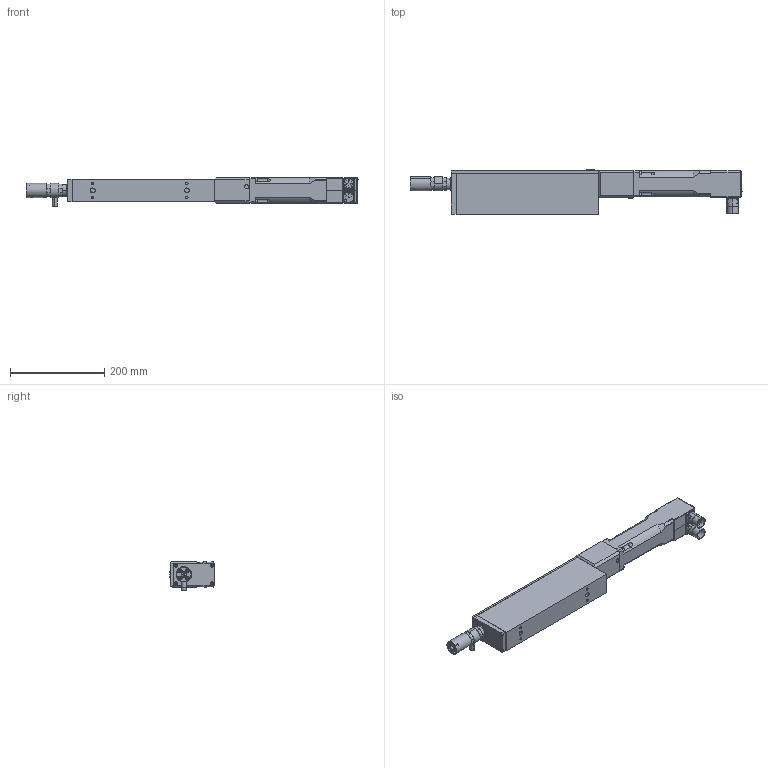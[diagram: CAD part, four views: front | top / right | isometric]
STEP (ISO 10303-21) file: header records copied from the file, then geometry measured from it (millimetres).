
FILE_DESCRIPTION (( 'STEP AP203' ), '1' );
FILE_NAME ('KM PR5IP010-020-030H.STEP', '2021-02-23T07:58:57', ( '' ), ( '' ), 'SwSTEP 2.0', 'SolidWorks 2016', '' );
FILE_SCHEMA (( 'CONFIG_CONTROL_DESIGN' ));
Length unit declared in the file: millimetre
Products named in the file (2): KM PR5IP010-020-030H
Bounding box: 705.59 x 95.58 x 61.5 mm (x, y, z)
Volume: 1929268.8 mm3; surface area: 349217.2 mm2
Topology: 33 solids, 45 shells, 2231 faces, 5205 edges, 3077 vertices
Faces by surface type: plane 1030, cylinder 617, cone 436, bspline 87, torus 48, sphere 13
Entity records: 65989 total; most frequent: CARTESIAN_POINT 16130, DIRECTION 10575, ORIENTED_EDGE 10030, EDGE_CURVE 5015, AXIS2_PLACEMENT_3D 4064, VERTEX_POINT 3064, EDGE_LOOP 2543, VECTOR 2447
